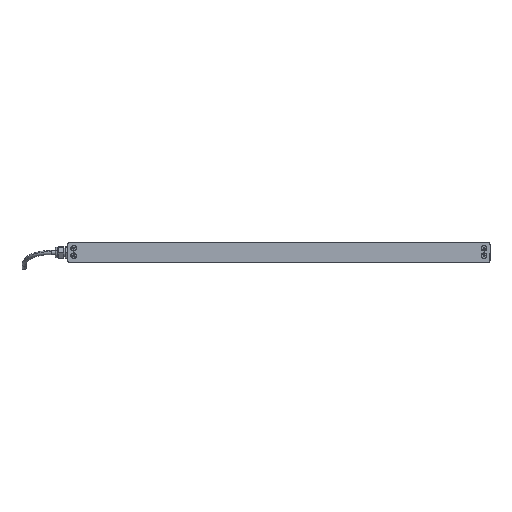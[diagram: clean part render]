
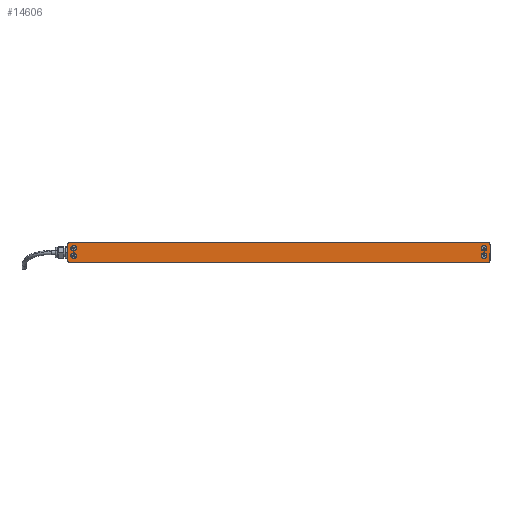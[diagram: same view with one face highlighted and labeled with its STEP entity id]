
A CAD part, left-side view. The second image highlights one B-rep face of the part: STEP entity #14606.
In plain terms, the highlighted planar face has unit normal (-1, 0, 0) as drawn and (0, 0, -1) by its records, which use the part's own axes.
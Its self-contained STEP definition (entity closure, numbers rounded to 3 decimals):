
#7 = CARTESIAN_POINT ( 'NONE',  ( 414., -20., 0. ) ) ;
#40 = CARTESIAN_POINT ( 'NONE',  ( -414., -20., 0. ) ) ;
#84 = ORIENTED_EDGE ( 'NONE', *, *, #3828, .F. ) ;
#583 = ORIENTED_EDGE ( 'NONE', *, *, #8428, .F. ) ;
#652 = CARTESIAN_POINT ( 'NONE',  ( -406.3, 8.5, 0. ) ) ;
#653 = VERTEX_POINT ( 'NONE', #15190 ) ;
#723 = EDGE_CURVE ( 'NONE', #6703, #1897, #9699, .T. ) ;
#790 = DIRECTION ( 'NONE',  ( 0., 0., 1. ) ) ;
#830 = CIRCLE ( 'NONE', #10424, 5.6 ) ;
#1111 = CIRCLE ( 'NONE', #5656, 5.6 ) ;
#1180 = ORIENTED_EDGE ( 'NONE', *, *, #14473, .F. ) ;
#1372 = ORIENTED_EDGE ( 'NONE', *, *, #6764, .F. ) ;
#1655 = DIRECTION ( 'NONE',  ( -1., 0., 0. ) ) ;
#1773 = DIRECTION ( 'NONE',  ( -1., 0., 0. ) ) ;
#1776 = CARTESIAN_POINT ( 'NONE',  ( 411.9, -6.3, 0. ) ) ;
#1897 = VERTEX_POINT ( 'NONE', #7230 ) ;
#2132 = VERTEX_POINT ( 'NONE', #9250 ) ;
#2283 = DIRECTION ( 'NONE',  ( -1., 0., 0. ) ) ;
#2527 = CIRCLE ( 'NONE', #2782, 5.6 ) ;
#2566 = EDGE_LOOP ( 'NONE', ( #5747, #6373 ) ) ;
#2657 = AXIS2_PLACEMENT_3D ( 'NONE', #11993, #8259, #14120 ) ;
#2782 = AXIS2_PLACEMENT_3D ( 'NONE', #6570, #11174, #5394 ) ;
#2880 = AXIS2_PLACEMENT_3D ( 'NONE', #13782, #3193, #1773 ) ;
#2896 = VERTEX_POINT ( 'NONE', #14200 ) ;
#2917 = DIRECTION ( 'NONE',  ( 1., 0., 0. ) ) ;
#3147 = DIRECTION ( 'NONE',  ( -1., 0., 0. ) ) ;
#3193 = DIRECTION ( 'NONE',  ( 0., 0., 1. ) ) ;
#3292 = DIRECTION ( 'NONE',  ( 0., 1., 0. ) ) ;
#3342 = AXIS2_PLACEMENT_3D ( 'NONE', #5457, #6554, #4114 ) ;
#3393 = DIRECTION ( 'NONE',  ( -1., 0., 0. ) ) ;
#3447 = ORIENTED_EDGE ( 'NONE', *, *, #3857, .F. ) ;
#3467 = DIRECTION ( 'NONE',  ( -1., 0., 0. ) ) ;
#3522 = DIRECTION ( 'NONE',  ( 0., 0., 1. ) ) ;
#3649 = CARTESIAN_POINT ( 'NONE',  ( 418., -16., 0. ) ) ;
#3654 = VERTEX_POINT ( 'NONE', #40 ) ;
#3668 = VECTOR ( 'NONE', #2917, 1000. ) ;
#3828 = EDGE_CURVE ( 'NONE', #5952, #13434, #9583, .T. ) ;
#3853 = VERTEX_POINT ( 'NONE', #1776 ) ;
#3857 = EDGE_CURVE ( 'NONE', #10873, #3853, #2527, .T. ) ;
#3870 = CARTESIAN_POINT ( 'NONE',  ( -406.3, 8.5, 0. ) ) ;
#4094 = CIRCLE ( 'NONE', #3342, 4. ) ;
#4114 = DIRECTION ( 'NONE',  ( 1., 0., 0. ) ) ;
#4181 = VECTOR ( 'NONE', #3292, 1000. ) ;
#4198 = DIRECTION ( 'NONE',  ( 0., -1., 0. ) ) ;
#4449 = EDGE_CURVE ( 'NONE', #653, #2132, #6309, .T. ) ;
#4450 = DIRECTION ( 'NONE',  ( 0., 0., -1. ) ) ;
#4478 = CARTESIAN_POINT ( 'NONE',  ( 414., 16., 0. ) ) ;
#4538 = DIRECTION ( 'NONE',  ( -1., 0., 0. ) ) ;
#4580 = PLANE ( 'NONE',  #7952 ) ;
#4642 = CARTESIAN_POINT ( 'NONE',  ( -414., 20., 0. ) ) ;
#4816 = EDGE_CURVE ( 'NONE', #3853, #10873, #8592, .T. ) ;
#4992 = CIRCLE ( 'NONE', #7266, 5.6 ) ;
#5057 = EDGE_CURVE ( 'NONE', #1897, #10558, #12436, .T. ) ;
#5274 = DIRECTION ( 'NONE',  ( 0., 0., -1. ) ) ;
#5347 = CARTESIAN_POINT ( 'NONE',  ( -414., -20., 0. ) ) ;
#5394 = DIRECTION ( 'NONE',  ( -1., 0., 0. ) ) ;
#5457 = CARTESIAN_POINT ( 'NONE',  ( 414., -16., 0. ) ) ;
#5656 = AXIS2_PLACEMENT_3D ( 'NONE', #652, #13693, #10298 ) ;
#5657 = LINE ( 'NONE', #10713, #4181 ) ;
#5747 = ORIENTED_EDGE ( 'NONE', *, *, #7684, .F. ) ;
#5766 = FACE_OUTER_BOUND ( 'NONE', #11010, .T. ) ;
#5798 = CARTESIAN_POINT ( 'NONE',  ( 406.3, -6.3, 0. ) ) ;
#5831 = LINE ( 'NONE', #4642, #7959 ) ;
#5870 = EDGE_LOOP ( 'NONE', ( #583, #1372 ) ) ;
#5941 = CARTESIAN_POINT ( 'NONE',  ( -418., -16., 0. ) ) ;
#5952 = VERTEX_POINT ( 'NONE', #8483 ) ;
#6106 = EDGE_CURVE ( 'NONE', #13999, #2896, #1111, .T. ) ;
#6309 = CIRCLE ( 'NONE', #6544, 4. ) ;
#6373 = ORIENTED_EDGE ( 'NONE', *, *, #6106, .F. ) ;
#6377 = CARTESIAN_POINT ( 'NONE',  ( -400.7, -6.3, 0. ) ) ;
#6389 = VERTEX_POINT ( 'NONE', #3649 ) ;
#6392 = ORIENTED_EDGE ( 'NONE', *, *, #10098, .F. ) ;
#6411 = CARTESIAN_POINT ( 'NONE',  ( -418., -16., 0. ) ) ;
#6488 = CARTESIAN_POINT ( 'NONE',  ( -400.7, 8.5, 0. ) ) ;
#6521 = CARTESIAN_POINT ( 'NONE',  ( -414., 20., 0. ) ) ;
#6544 = AXIS2_PLACEMENT_3D ( 'NONE', #4478, #3522, #10645 ) ;
#6554 = DIRECTION ( 'NONE',  ( 0., 0., 1. ) ) ;
#6570 = CARTESIAN_POINT ( 'NONE',  ( 406.3, -6.3, 0. ) ) ;
#6681 = LINE ( 'NONE', #5347, #3668 ) ;
#6703 = VERTEX_POINT ( 'NONE', #6521 ) ;
#6721 = DIRECTION ( 'NONE',  ( -1., 0., 0. ) ) ;
#6764 = EDGE_CURVE ( 'NONE', #14856, #9813, #15000, .T. ) ;
#6885 = CARTESIAN_POINT ( 'NONE',  ( 411.9, 8.5, 0. ) ) ;
#6937 = FACE_BOUND ( 'NONE', #2566, .T. ) ;
#7230 = CARTESIAN_POINT ( 'NONE',  ( -418., 16., 0. ) ) ;
#7266 = AXIS2_PLACEMENT_3D ( 'NONE', #14050, #15150, #3147 ) ;
#7508 = EDGE_CURVE ( 'NONE', #14253, #6389, #4094, .T. ) ;
#7684 = EDGE_CURVE ( 'NONE', #2896, #13999, #830, .T. ) ;
#7952 = AXIS2_PLACEMENT_3D ( 'NONE', #9397, #14222, #3393 ) ;
#7959 = VECTOR ( 'NONE', #2283, 1000. ) ;
#8126 = FACE_BOUND ( 'NONE', #11296, .T. ) ;
#8259 = DIRECTION ( 'NONE',  ( 0., 0., -1. ) ) ;
#8428 = EDGE_CURVE ( 'NONE', #9813, #14856, #4992, .T. ) ;
#8483 = CARTESIAN_POINT ( 'NONE',  ( 400.7, 8.5, 0. ) ) ;
#8540 = ORIENTED_EDGE ( 'NONE', *, *, #7508, .F. ) ;
#8592 = CIRCLE ( 'NONE', #9867, 5.6 ) ;
#8724 = AXIS2_PLACEMENT_3D ( 'NONE', #12815, #790, #3467 ) ;
#8954 = CARTESIAN_POINT ( 'NONE',  ( 406.3, 8.5, 0. ) ) ;
#9236 = ORIENTED_EDGE ( 'NONE', *, *, #10114, .F. ) ;
#9250 = CARTESIAN_POINT ( 'NONE',  ( 414., 20., 0. ) ) ;
#9397 = CARTESIAN_POINT ( 'NONE',  ( 414., 16., 0. ) ) ;
#9483 = CIRCLE ( 'NONE', #11239, 5.6 ) ;
#9583 = CIRCLE ( 'NONE', #15132, 5.6 ) ;
#9699 = CIRCLE ( 'NONE', #2880, 4. ) ;
#9780 = ORIENTED_EDGE ( 'NONE', *, *, #5057, .F. ) ;
#9813 = VERTEX_POINT ( 'NONE', #11942 ) ;
#9867 = AXIS2_PLACEMENT_3D ( 'NONE', #5798, #15359, #4538 ) ;
#10081 = ORIENTED_EDGE ( 'NONE', *, *, #4816, .F. ) ;
#10098 = EDGE_CURVE ( 'NONE', #3654, #14253, #6681, .T. ) ;
#10114 = EDGE_CURVE ( 'NONE', #13434, #5952, #9483, .T. ) ;
#10187 = CARTESIAN_POINT ( 'NONE',  ( 406.3, 8.5, 0. ) ) ;
#10298 = DIRECTION ( 'NONE',  ( -1., 0., 0. ) ) ;
#10424 = AXIS2_PLACEMENT_3D ( 'NONE', #3870, #4450, #6721 ) ;
#10558 = VERTEX_POINT ( 'NONE', #5941 ) ;
#10645 = DIRECTION ( 'NONE',  ( -1., 0., 0. ) ) ;
#10713 = CARTESIAN_POINT ( 'NONE',  ( 418., -16., 0. ) ) ;
#10804 = EDGE_CURVE ( 'NONE', #2132, #6703, #5831, .T. ) ;
#10873 = VERTEX_POINT ( 'NONE', #15465 ) ;
#11010 = EDGE_LOOP ( 'NONE', ( #12347, #12545, #8540, #6392, #1180, #9780, #11202, #11155 ) ) ;
#11155 = ORIENTED_EDGE ( 'NONE', *, *, #10804, .F. ) ;
#11174 = DIRECTION ( 'NONE',  ( 0., 0., -1. ) ) ;
#11202 = ORIENTED_EDGE ( 'NONE', *, *, #723, .F. ) ;
#11239 = AXIS2_PLACEMENT_3D ( 'NONE', #10187, #5274, #1655 ) ;
#11296 = EDGE_LOOP ( 'NONE', ( #84, #9236 ) ) ;
#11784 = FACE_BOUND ( 'NONE', #5870, .T. ) ;
#11942 = CARTESIAN_POINT ( 'NONE',  ( -411.9, -6.3, 0. ) ) ;
#11977 = EDGE_CURVE ( 'NONE', #6389, #653, #5657, .T. ) ;
#11993 = CARTESIAN_POINT ( 'NONE',  ( -406.3, -6.3, 0. ) ) ;
#12347 = ORIENTED_EDGE ( 'NONE', *, *, #4449, .F. ) ;
#12436 = LINE ( 'NONE', #6411, #15153 ) ;
#12545 = ORIENTED_EDGE ( 'NONE', *, *, #11977, .F. ) ;
#12815 = CARTESIAN_POINT ( 'NONE',  ( -414., -16., 0. ) ) ;
#12862 = EDGE_LOOP ( 'NONE', ( #3447, #10081 ) ) ;
#12969 = FACE_BOUND ( 'NONE', #12862, .T. ) ;
#13434 = VERTEX_POINT ( 'NONE', #6885 ) ;
#13520 = CIRCLE ( 'NONE', #8724, 4. ) ;
#13693 = DIRECTION ( 'NONE',  ( 0., 0., -1. ) ) ;
#13782 = CARTESIAN_POINT ( 'NONE',  ( -414., 16., 0. ) ) ;
#13784 = DIRECTION ( 'NONE',  ( -1., 0., 0. ) ) ;
#13999 = VERTEX_POINT ( 'NONE', #6488 ) ;
#14050 = CARTESIAN_POINT ( 'NONE',  ( -406.3, -6.3, 0. ) ) ;
#14120 = DIRECTION ( 'NONE',  ( -1., 0., 0. ) ) ;
#14200 = CARTESIAN_POINT ( 'NONE',  ( -411.9, 8.5, 0. ) ) ;
#14222 = DIRECTION ( 'NONE',  ( 0., 0., -1. ) ) ;
#14253 = VERTEX_POINT ( 'NONE', #7 ) ;
#14473 = EDGE_CURVE ( 'NONE', #10558, #3654, #13520, .T. ) ;
#14606 = ADVANCED_FACE ( 'NONE', ( #8126, #12969, #6937, #11784, #5766 ), #4580, .T. ) ;
#14856 = VERTEX_POINT ( 'NONE', #6377 ) ;
#14894 = DIRECTION ( 'NONE',  ( 0., 0., -1. ) ) ;
#15000 = CIRCLE ( 'NONE', #2657, 5.6 ) ;
#15132 = AXIS2_PLACEMENT_3D ( 'NONE', #8954, #14894, #13784 ) ;
#15150 = DIRECTION ( 'NONE',  ( 0., 0., -1. ) ) ;
#15153 = VECTOR ( 'NONE', #4198, 1000. ) ;
#15190 = CARTESIAN_POINT ( 'NONE',  ( 418., 16., 0. ) ) ;
#15359 = DIRECTION ( 'NONE',  ( 0., 0., -1. ) ) ;
#15465 = CARTESIAN_POINT ( 'NONE',  ( 400.7, -6.3, 0. ) ) ;
